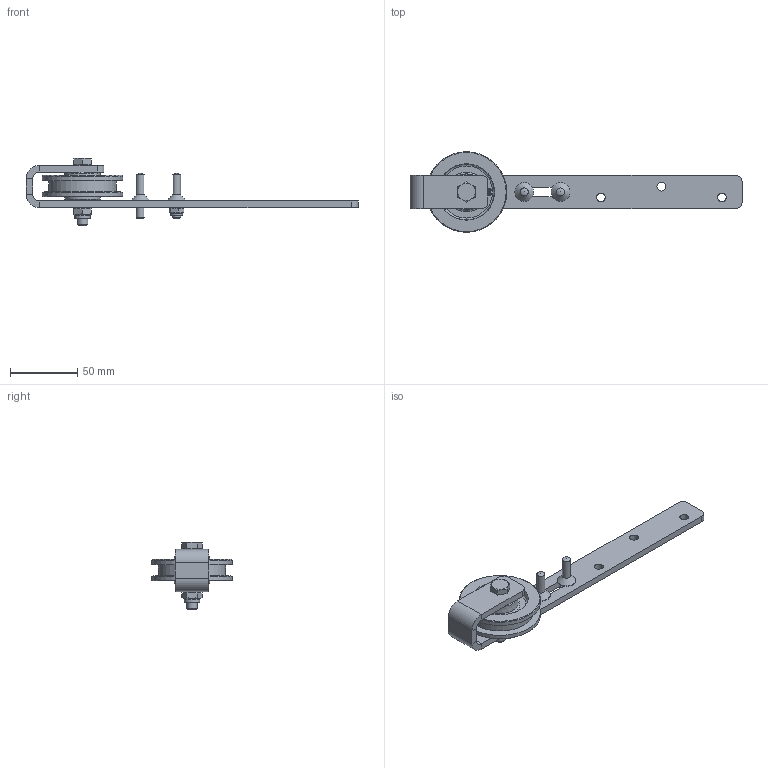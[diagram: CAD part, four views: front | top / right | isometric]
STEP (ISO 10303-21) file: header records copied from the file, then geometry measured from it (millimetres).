
FILE_DESCRIPTION(/* description */ ('Schiebetorrolle mit Buegel Ø60'),/* implementation_level */ '2;1');
FILE_NAME(/* name */ 'C:\Temp\AG_VJobSTP\010330110.iam.stp',/* time_stamp */ '2022-10-27T10:59:41+02:00',/* author */ ('O. Loukota'),/* organization */ (''),/* preprocessor_version */ 'ST-DEVELOPER v18.1',/* originating_system */ 'Autodesk Inventor 2021',/* authorisation */ '');
FILE_SCHEMA (('AUTOMOTIVE_DESIGN { 1 0 10303 214 3 1 1 }'));
Length unit declared in the file: millimetre
Products named in the file (8): 010330110; 010330110_02; 337000110; DIN EN ISO 7040 - M6; 011331011; DIN 931-1 - M8 x 45; DIN EN ISO 7040 - M8; 010330110_03
Assembly tree (14 placements, depth 2):
  010330110
    010330110_02
    337000110
    DIN EN ISO 7040 - M6
    011331011  x2
    DIN 931-1 - M8 x 45
    DIN EN ISO 7040 - M8
    010330110_03  x7
Bounding box: 247 x 60 x 50.3 mm (x, y, z)
Volume: 73181.3 mm3; surface area: 39404.9 mm2
Topology: 14 solids, 14 shells, 200 faces, 432 edges, 272 vertices
Faces by surface type: plane 98, cylinder 40, bspline 29, cone 27, torus 6
Full cylindrical faces by diameter (mm): 4.917 x1, 5 x7, 6 x4, 6.5 x3, 6.647 x1, 8 x1, 8.5 x2, 8.9 x1, 11.6 x2, 14 x2, 18 x1, 50 x1, 60 x2
Entity records: 5249 total; most frequent: CARTESIAN_POINT 1299, ORIENTED_EDGE 756, DIRECTION 725, EDGE_CURVE 378, AXIS2_PLACEMENT_3D 276, VERTEX_POINT 239, EDGE_LOOP 197, LINE 173
